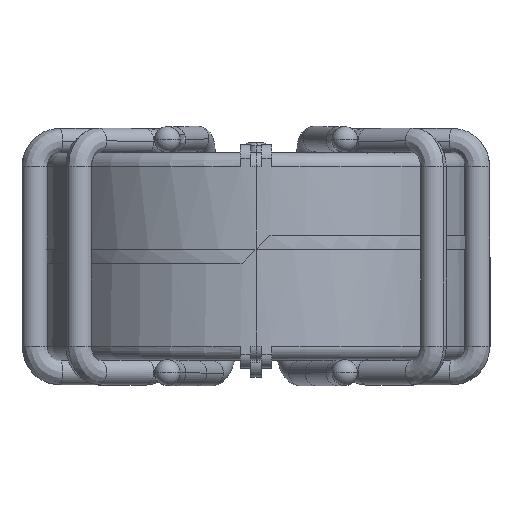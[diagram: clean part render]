
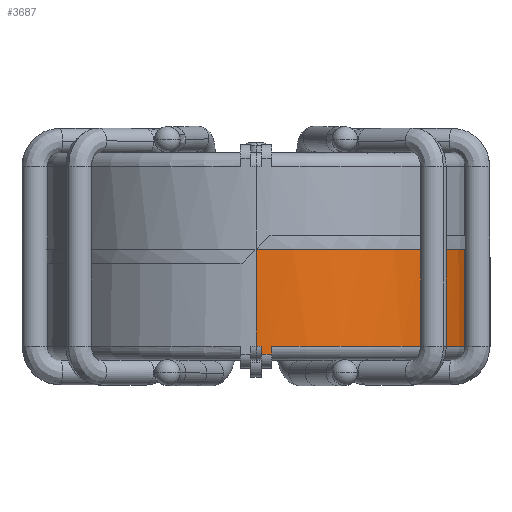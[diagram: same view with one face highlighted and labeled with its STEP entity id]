
A CAD part, top view. The second image highlights one B-rep face of the part: STEP entity #3687.
In plain terms, the highlighted cylindrical face has radius 15.414 mm (diameter 30.827 mm), a partial arc.
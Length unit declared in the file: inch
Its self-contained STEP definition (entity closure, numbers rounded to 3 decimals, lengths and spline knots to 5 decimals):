
#2 = DIRECTION ( 'NONE',  ( 0., 1., 0. ) ) ;
#549 = VECTOR ( 'NONE', #4546, 39.37008 ) ;
#696 = LINE ( 'NONE', #6089, #6709 ) ;
#743 = CARTESIAN_POINT ( 'NONE',  ( 0., 0.02008, 0. ) ) ;
#1025 = DIRECTION ( 'NONE',  ( 0., 0., 1. ) ) ;
#1264 = ORIENTED_EDGE ( 'NONE', *, *, #3064, .T. ) ;
#1321 = EDGE_CURVE ( 'NONE', #5025, #13086, #9962, .T. ) ;
#1434 = FACE_OUTER_BOUND ( 'NONE', #8261, .T. ) ;
#1664 = CARTESIAN_POINT ( 'NONE',  ( 0., 0.29254, 0. ) ) ;
#1763 = DIRECTION ( 'NONE',  ( 0., -1., 0. ) ) ;
#1932 = CARTESIAN_POINT ( 'NONE',  ( 0., -0.25317, 0. ) ) ;
#1937 = CARTESIAN_POINT ( 'NONE',  ( 0., 0.29254, -0.60684 ) ) ;
#1967 = CARTESIAN_POINT ( 'NONE',  ( 0., 0.02008, -0.60684 ) ) ;
#1969 = CARTESIAN_POINT ( 'NONE',  ( 0.01476, 0.31496, -0.60666 ) ) ;
#2094 = DIRECTION ( 'NONE',  ( 0., -1., 0. ) ) ;
#2124 = ORIENTED_EDGE ( 'NONE', *, *, #1321, .F. ) ;
#2219 = CARTESIAN_POINT ( 'NONE',  ( 0.01476, -0.27559, 0.60666 ) ) ;
#2288 = DIRECTION ( 'NONE',  ( 0., -1., 0. ) ) ;
#2383 = EDGE_CURVE ( 'NONE', #11342, #12659, #7800, .T. ) ;
#2555 = AXIS2_PLACEMENT_3D ( 'NONE', #8855, #2797, #9504 ) ;
#2639 = CARTESIAN_POINT ( 'NONE',  ( 0.04429, -0.27559, 0.60522 ) ) ;
#2676 = DIRECTION ( 'NONE',  ( 0., -1., 0. ) ) ;
#2797 = DIRECTION ( 'NONE',  ( 0., 1., 0. ) ) ;
#3062 = EDGE_CURVE ( 'NONE', #8148, #12575, #8209, .T. ) ;
#3064 = EDGE_CURVE ( 'NONE', #9197, #4295, #12756, .T. ) ;
#3107 = CARTESIAN_POINT ( 'NONE',  ( 0.04429, -0.27559, -0.60522 ) ) ;
#3186 = CIRCLE ( 'NONE', #9978, 0.60684 ) ;
#3345 = DIRECTION ( 'NONE',  ( 0., 1., 0. ) ) ;
#3351 = VERTEX_POINT ( 'NONE', #2639 ) ;
#3392 = DIRECTION ( 'NONE',  ( 0., 0., -1. ) ) ;
#3466 = CARTESIAN_POINT ( 'NONE',  ( 0.01476, -0.27559, -0.60666 ) ) ;
#3469 = DIRECTION ( 'NONE',  ( 0., 0., 1. ) ) ;
#3470 = EDGE_CURVE ( 'NONE', #4795, #3351, #7424, .T. ) ;
#3472 = ORIENTED_EDGE ( 'NONE', *, *, #4490, .F. ) ;
#3687 = ADVANCED_FACE ( 'NONE', ( #1434 ), #10952, .T. ) ;
#3707 = DIRECTION ( 'NONE',  ( 0., -1., 0. ) ) ;
#3935 = VECTOR ( 'NONE', #2676, 39.37008 ) ;
#4295 = VERTEX_POINT ( 'NONE', #9119 ) ;
#4315 = ORIENTED_EDGE ( 'NONE', *, *, #3470, .T. ) ;
#4443 = CARTESIAN_POINT ( 'NONE',  ( 0., 0.29254, 0.60684 ) ) ;
#4490 = EDGE_CURVE ( 'NONE', #13086, #9211, #4972, .T. ) ;
#4546 = DIRECTION ( 'NONE',  ( 0., -1., 0. ) ) ;
#4554 = CARTESIAN_POINT ( 'NONE',  ( 0., 0.29254, -0.60684 ) ) ;
#4698 = VECTOR ( 'NONE', #2288, 39.37008 ) ;
#4702 = LINE ( 'NONE', #9019, #9221 ) ;
#4795 = VERTEX_POINT ( 'NONE', #2219 ) ;
#4848 = DIRECTION ( 'NONE',  ( 0., 1., 0. ) ) ;
#4856 = DIRECTION ( 'NONE',  ( 0., 0., -1. ) ) ;
#4972 = LINE ( 'NONE', #1937, #549 ) ;
#5025 = VERTEX_POINT ( 'NONE', #1967 ) ;
#5228 = CARTESIAN_POINT ( 'NONE',  ( 0.04429, -0.25317, 0.60522 ) ) ;
#5250 = EDGE_CURVE ( 'NONE', #12575, #12693, #10730, .T. ) ;
#5488 = ORIENTED_EDGE ( 'NONE', *, *, #9638, .T. ) ;
#5532 = AXIS2_PLACEMENT_3D ( 'NONE', #1932, #2, #3469 ) ;
#5554 = VECTOR ( 'NONE', #3707, 39.37008 ) ;
#5562 = ORIENTED_EDGE ( 'NONE', *, *, #6298, .F. ) ;
#5566 = CARTESIAN_POINT ( 'NONE',  ( 0., -0.25317, 0.60684 ) ) ;
#5660 = CARTESIAN_POINT ( 'NONE',  ( 0., -0.25317, -0.60684 ) ) ;
#5762 = DIRECTION ( 'NONE',  ( 0., 1., 0. ) ) ;
#6089 = CARTESIAN_POINT ( 'NONE',  ( 0.04429, 0.31496, 0.60522 ) ) ;
#6298 = EDGE_CURVE ( 'NONE', #9197, #3351, #696, .T. ) ;
#6347 = LINE ( 'NONE', #12398, #3935 ) ;
#6383 = ORIENTED_EDGE ( 'NONE', *, *, #9465, .T. ) ;
#6484 = CARTESIAN_POINT ( 'NONE',  ( 0.01476, -0.25317, 0.60666 ) ) ;
#6487 = CARTESIAN_POINT ( 'NONE',  ( 0., 0.29254, 0.60684 ) ) ;
#6623 = AXIS2_PLACEMENT_3D ( 'NONE', #8957, #3345, #4856 ) ;
#6647 = CARTESIAN_POINT ( 'NONE',  ( 0., -0.25317, 0. ) ) ;
#6709 = VECTOR ( 'NONE', #1763, 39.37008 ) ;
#6991 = CIRCLE ( 'NONE', #2555, 0.60684 ) ;
#7103 = EDGE_CURVE ( 'NONE', #10309, #8148, #8110, .T. ) ;
#7113 = DIRECTION ( 'NONE',  ( 0., -1., 0. ) ) ;
#7424 = CIRCLE ( 'NONE', #6623, 0.60684 ) ;
#7765 = CARTESIAN_POINT ( 'NONE',  ( 0., -0.27559, 0. ) ) ;
#7768 = EDGE_CURVE ( 'NONE', #10309, #5025, #3186, .T. ) ;
#7800 = LINE ( 'NONE', #1969, #5554 ) ;
#8095 = CARTESIAN_POINT ( 'NONE',  ( 0., 0.01969, 0.60684 ) ) ;
#8110 = LINE ( 'NONE', #4443, #4698 ) ;
#8148 = VERTEX_POINT ( 'NONE', #8095 ) ;
#8209 = LINE ( 'NONE', #6487, #13174 ) ;
#8261 = EDGE_LOOP ( 'NONE', ( #8535, #8611, #12849, #10817, #6383, #4315, #5562, #1264, #5488, #10056, #10028, #10384, #3472, #2124 ) ) ;
#8286 = DIRECTION ( 'NONE',  ( 0., 0., 1. ) ) ;
#8310 = AXIS2_PLACEMENT_3D ( 'NONE', #6647, #5762, #1025 ) ;
#8500 = CARTESIAN_POINT ( 'NONE',  ( 0., 0.01969, -0.60684 ) ) ;
#8535 = ORIENTED_EDGE ( 'NONE', *, *, #7768, .F. ) ;
#8611 = ORIENTED_EDGE ( 'NONE', *, *, #7103, .T. ) ;
#8653 = EDGE_CURVE ( 'NONE', #11342, #9211, #6991, .T. ) ;
#8855 = CARTESIAN_POINT ( 'NONE',  ( 0., -0.25317, 0. ) ) ;
#8957 = CARTESIAN_POINT ( 'NONE',  ( 0., -0.27559, 0. ) ) ;
#9011 = DIRECTION ( 'NONE',  ( 0., -1., 0. ) ) ;
#9019 = CARTESIAN_POINT ( 'NONE',  ( 0.04429, 0.31496, -0.60522 ) ) ;
#9119 = CARTESIAN_POINT ( 'NONE',  ( 0.04429, -0.25317, -0.60522 ) ) ;
#9197 = VERTEX_POINT ( 'NONE', #5228 ) ;
#9211 = VERTEX_POINT ( 'NONE', #5660 ) ;
#9221 = VECTOR ( 'NONE', #2094, 39.37008 ) ;
#9275 = CARTESIAN_POINT ( 'NONE',  ( 0.01476, -0.25317, -0.60666 ) ) ;
#9417 = AXIS2_PLACEMENT_3D ( 'NONE', #1664, #9011, #3392 ) ;
#9465 = EDGE_CURVE ( 'NONE', #12693, #4795, #6347, .T. ) ;
#9504 = DIRECTION ( 'NONE',  ( 0., 0., 1. ) ) ;
#9638 = EDGE_CURVE ( 'NONE', #4295, #13018, #4702, .T. ) ;
#9707 = DIRECTION ( 'NONE',  ( 0., 1., 0. ) ) ;
#9962 = LINE ( 'NONE', #4554, #11293 ) ;
#9978 = AXIS2_PLACEMENT_3D ( 'NONE', #743, #4848, #8286 ) ;
#10026 = CIRCLE ( 'NONE', #13243, 0.60684 ) ;
#10028 = ORIENTED_EDGE ( 'NONE', *, *, #2383, .F. ) ;
#10056 = ORIENTED_EDGE ( 'NONE', *, *, #11325, .T. ) ;
#10309 = VERTEX_POINT ( 'NONE', #11365 ) ;
#10384 = ORIENTED_EDGE ( 'NONE', *, *, #8653, .T. ) ;
#10730 = CIRCLE ( 'NONE', #8310, 0.60684 ) ;
#10817 = ORIENTED_EDGE ( 'NONE', *, *, #5250, .T. ) ;
#10952 = CYLINDRICAL_SURFACE ( 'NONE', #9417, 0.60684 ) ;
#11293 = VECTOR ( 'NONE', #12093, 39.37008 ) ;
#11325 = EDGE_CURVE ( 'NONE', #13018, #12659, #10026, .T. ) ;
#11342 = VERTEX_POINT ( 'NONE', #9275 ) ;
#11365 = CARTESIAN_POINT ( 'NONE',  ( 0., 0.02008, 0.60684 ) ) ;
#12093 = DIRECTION ( 'NONE',  ( 0., -1., 0. ) ) ;
#12303 = DIRECTION ( 'NONE',  ( 0., 0., 1. ) ) ;
#12398 = CARTESIAN_POINT ( 'NONE',  ( 0.01476, 0.31496, 0.60666 ) ) ;
#12575 = VERTEX_POINT ( 'NONE', #5566 ) ;
#12659 = VERTEX_POINT ( 'NONE', #3466 ) ;
#12693 = VERTEX_POINT ( 'NONE', #6484 ) ;
#12756 = CIRCLE ( 'NONE', #5532, 0.60684 ) ;
#12849 = ORIENTED_EDGE ( 'NONE', *, *, #3062, .T. ) ;
#13018 = VERTEX_POINT ( 'NONE', #3107 ) ;
#13086 = VERTEX_POINT ( 'NONE', #8500 ) ;
#13174 = VECTOR ( 'NONE', #7113, 39.37008 ) ;
#13243 = AXIS2_PLACEMENT_3D ( 'NONE', #7765, #9707, #12303 ) ;
